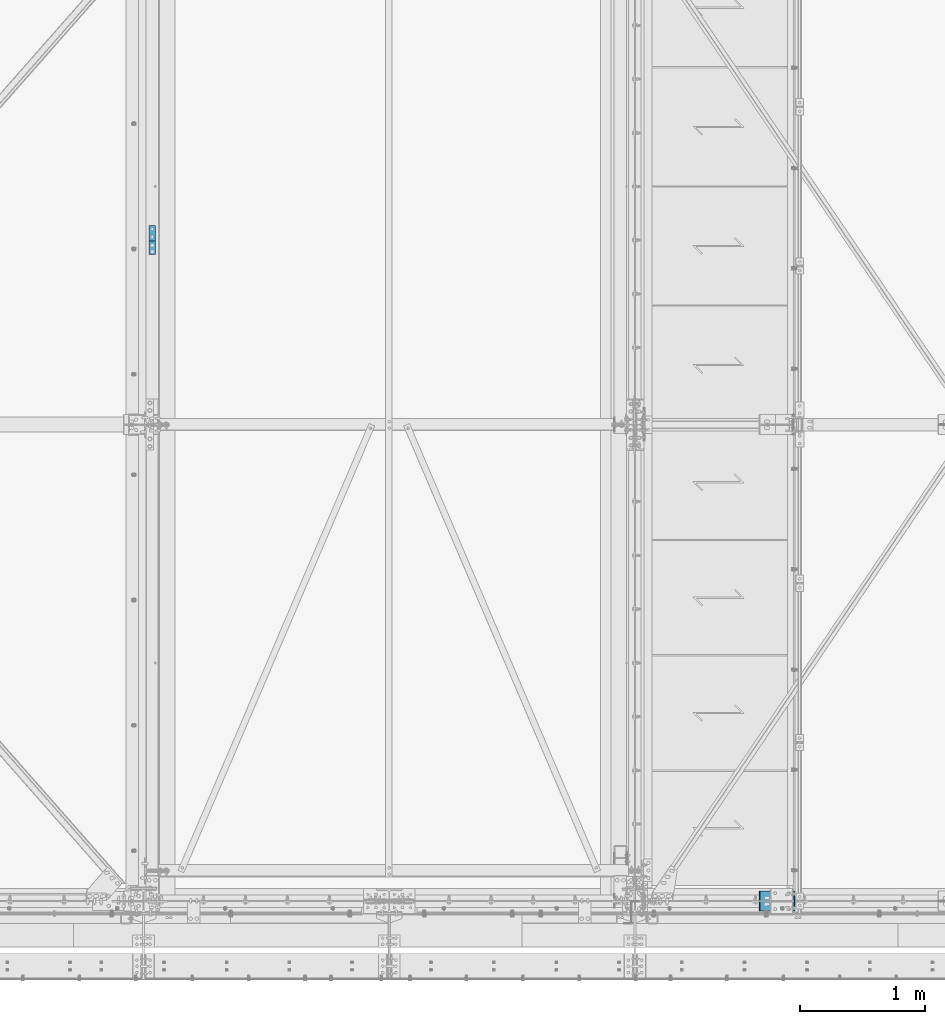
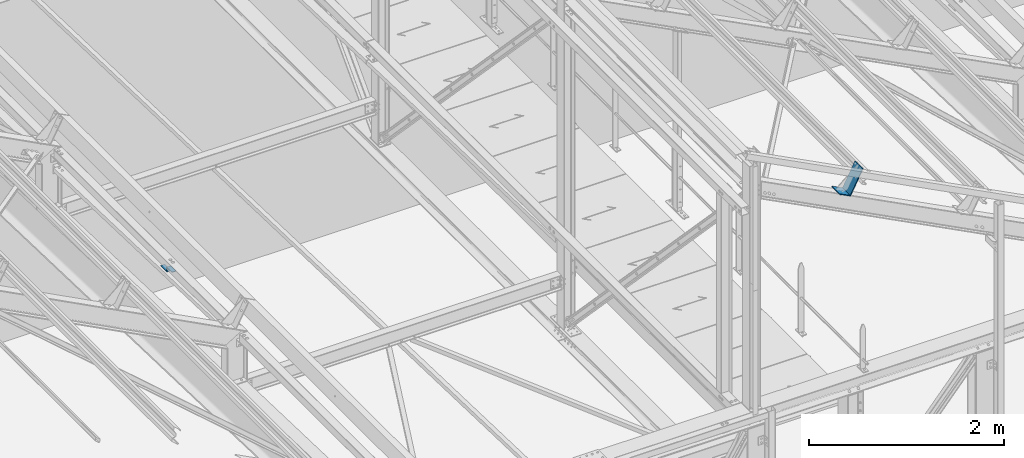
# One storey, part 357 of 362: 2 beams, 2 elements without a shape of their own.
"""IFC2X3 building model written with IfcOpenShell, lengths in millimetres."""

from ifc_helpers import new_model, si_unit, frame, origin_with_axes, place, context, subcontext, project, spatial, faceted_brep, material, type_object, element, aggregate, save


model = new_model("IFC2X3")

# Units and contexts
model_context = context("Model", 3, precision=1e-05, world=origin_with_axes())
body_context = subcontext(model_context, "Body", "Model", "MODEL_VIEW")
ifc_project = project(units=[si_unit("LENGTHUNIT", "METRE", prefix="MILLI"), si_unit("AREAUNIT", "SQUARE_METRE"), si_unit("VOLUMEUNIT", "CUBIC_METRE"), si_unit("MASSUNIT", "GRAM", prefix="KILO"), si_unit("TIMEUNIT", "SECOND"), si_unit("PLANEANGLEUNIT", "RADIAN"), si_unit("SOLIDANGLEUNIT", "STERADIAN"), si_unit("THERMODYNAMICTEMPERATUREUNIT", "DEGREE_CELSIUS"), si_unit("LUMINOUSINTENSITYUNIT", "LUMEN")], contexts=[model_context])

# Site, building, storey
site_placement = place(None, origin_with_axes())
site = spatial("IfcSite", under=ifc_project, at=site_placement, Name="Undefined", CompositionType="ELEMENT")
building_placement = place(site_placement, origin_with_axes())
building = spatial("IfcBuilding", under=site, at=building_placement, Name="Undefined", CompositionType="ELEMENT")
storey_placement = place(building_placement, origin_with_axes())
storey = spatial("IfcBuildingStorey", under=building, at=storey_placement, Name="Undefined", CompositionType="ELEMENT", Elevation=0.0)

# Assembly, beam
assembly_1_placement = place(storey_placement, origin_with_axes())
assembly_1 = element("IfcElementAssembly", 1, at=assembly_1_placement, inside=storey, Name="PANNE SHED", AssemblyPlace="NOTDEFINED", PredefinedType="NOTDEFINED")
ifc_material = material(Name="Undefined/S235-E24")
beam_type_1 = type_object("IfcBeamType", Name="PL10*160", PredefinedType="NOTDEFINED")
beam_1_placement = place(assembly_1_placement, frame((24741.3379597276, 4.08011983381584e-05, 11118.1442193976), z_axis=(0.0, -1.0, 0.0), x_axis=(-0.460093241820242, 0.0, -0.887870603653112)))
beam_1 = element("IfcBeam", 2, at=beam_1_placement, type_object=beam_type_1, material=ifc_material, Name="PANNE SHED", ObjectType="PL10*160", context=body_context, shape_type="Brep", body=[
    faceted_brep([(5.07934601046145e-08, -5.00000000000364, -80.0), (5.081164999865e-08, -5.0, 80.0), (-5.08007360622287e-08, 5.0, 79.9999999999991), (-5.0815287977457e-08, 4.99999999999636, -80.0000000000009), (329.999999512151, 5.00000335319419, 79.99999999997), (329.999999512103, 5.00000335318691, -80.00000000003), (319.999998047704, -4.9999967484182, -80.0000000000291), (319.999998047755, -4.99999674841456, 79.9999999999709), (329.999977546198, -144.999983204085, 79.9999999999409), (329.999977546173, -144.999983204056, -80.0000000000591), (319.999977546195, -144.999981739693, 79.9999999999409), (319.999977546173, -144.999981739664, -80.0000000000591)], [[[0, 1, 2, 3]], [[3, 2, 4, 5]], [[1, 0, 6, 7]], [[5, 4, 8, 9]], [[4, 2, 1, 7, 10, 8]], [[7, 6, 11, 10]], [[6, 0, 3, 5, 9, 11]], [[10, 11, 9, 8]]]),
])
aggregate(assembly_1, [beam_1])

assembly_2_placement = place(storey_placement, origin_with_axes())
assembly_2 = element("IfcElementAssembly", 3, at=assembly_2_placement, inside=storey, AssemblyPlace="NOTDEFINED", PredefinedType="NOTDEFINED")
beam_type_2 = type_object("IfcBeamType", Name="PL6*50", PredefinedType="NOTDEFINED")
beam_2_placement = place(assembly_2_placement, frame((19619.9999999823, 5155.38587692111, 8447.0), z_axis=(1.0, 0.0, 0.0), x_axis=(0.0, 1.0, 0.0)))
beam_2 = element("IfcBeam", 4, at=beam_2_placement, type_object=beam_type_2, material=ifc_material, Name="ATTACHE", ObjectType="PL6*50", context=body_context, shape_type="Brep", body=[
    faceted_brep([(-5.16229192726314e-09, -3.0, -25.0), (-5.16229192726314e-09, -3.0, 25.0), (5.16229192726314e-09, 3.0, 25.0), (5.16229192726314e-09, 3.0, -25.0), (109.999999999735, 2.99999999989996, 25.0), (109.999999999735, 2.99999999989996, -25.0), (103.99999999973, -3.00000000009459, -25.0), (103.99999999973, -3.00000000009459, 25.0), (109.999999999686, -51.1856165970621, 25.0), (109.999999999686, -51.1856165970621, -25.0), (103.999999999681, -57.0000000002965, -25.0), (103.999999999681, -57.0000000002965, 25.0), (234.124323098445, -55.086831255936, 25.0), (234.124323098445, -55.086831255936, -25.0), (233.935836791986, -61.0838699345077, 25.0), (233.935836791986, -61.0838699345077, -25.0)], [[[0, 1, 2, 3]], [[3, 2, 4, 5]], [[1, 0, 6, 7]], [[5, 4, 8, 9]], [[7, 6, 10, 11]], [[9, 8, 12, 13]], [[8, 4, 2, 1, 7, 11, 14, 12]], [[11, 10, 15, 14]], [[10, 6, 0, 3, 5, 9, 13, 15]], [[14, 15, 13, 12]]]),
])
aggregate(assembly_2, [beam_2])

save(model, "model.ifc")
